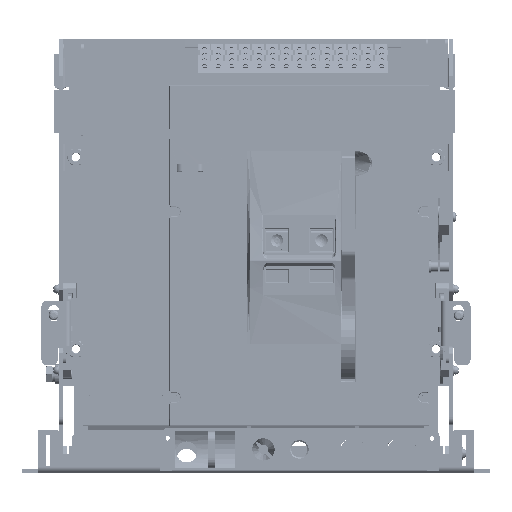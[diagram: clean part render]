
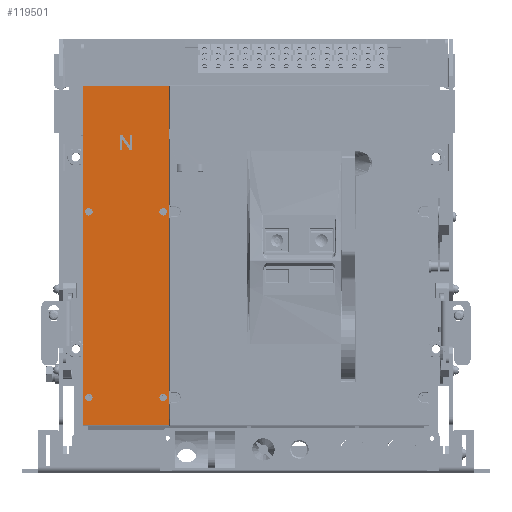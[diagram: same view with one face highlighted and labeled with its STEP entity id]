
A CAD part, top view. The second image highlights one B-rep face of the part: STEP entity #119501.
In plain terms, the highlighted planar face has unit normal (0, 0, 1).
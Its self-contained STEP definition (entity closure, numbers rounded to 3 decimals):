
#117812=DIRECTION('',(0.,-1.,0.));
#117813=VECTOR('',#117812,274.);
#117814=CARTESIAN_POINT('',(0.5,274.5,23.));
#117815=LINE('',#117814,#117813);
#117837=DIRECTION('',(-1.,0.,0.));
#117838=VECTOR('',#117837,69.);
#117839=CARTESIAN_POINT('',(69.5,274.5,23.));
#117840=LINE('',#117839,#117838);
#117887=DIRECTION('',(0.,1.,0.));
#117888=VECTOR('',#117887,274.);
#117889=CARTESIAN_POINT('',(69.5,0.5,23.));
#117890=LINE('',#117889,#117888);
#117905=DIRECTION('',(1.,0.,0.));
#117906=VECTOR('',#117905,69.);
#117907=CARTESIAN_POINT('',(0.5,0.5,23.));
#117908=LINE('',#117907,#117906);
#117919=CARTESIAN_POINT('',(5.,173.,23.));
#117920=DIRECTION('',(0.,0.,1.));
#117921=DIRECTION('',(1.,0.,0.));
#117922=AXIS2_PLACEMENT_3D('',#117919,#117920,#117921);
#117927=CARTESIAN_POINT('',(5.,173.,23.));
#117928=DIRECTION('',(0.,0.,1.));
#117929=DIRECTION('',(-1.,0.,0.));
#117930=AXIS2_PLACEMENT_3D('',#117927,#117928,#117929);
#117935=CARTESIAN_POINT('',(65.,173.,23.));
#117936=DIRECTION('',(0.,0.,1.));
#117937=DIRECTION('',(1.,0.,0.));
#117938=AXIS2_PLACEMENT_3D('',#117935,#117936,#117937);
#117943=CARTESIAN_POINT('',(65.,173.,23.));
#117944=DIRECTION('',(0.,0.,1.));
#117945=DIRECTION('',(-1.,0.,0.));
#117946=AXIS2_PLACEMENT_3D('',#117943,#117944,#117945);
#117951=CARTESIAN_POINT('',(5.,23.,23.));
#117952=DIRECTION('',(0.,0.,1.));
#117953=DIRECTION('',(1.,0.,0.));
#117954=AXIS2_PLACEMENT_3D('',#117951,#117952,#117953);
#117959=CARTESIAN_POINT('',(5.,23.,23.));
#117960=DIRECTION('',(0.,0.,1.));
#117961=DIRECTION('',(-1.,0.,0.));
#117962=AXIS2_PLACEMENT_3D('',#117959,#117960,#117961);
#117967=CARTESIAN_POINT('',(65.,23.,23.));
#117968=DIRECTION('',(0.,0.,1.));
#117969=DIRECTION('',(1.,0.,0.));
#117970=AXIS2_PLACEMENT_3D('',#117967,#117968,#117969);
#117975=CARTESIAN_POINT('',(65.,23.,23.));
#117976=DIRECTION('',(0.,0.,1.));
#117977=DIRECTION('',(-1.,0.,0.));
#117978=AXIS2_PLACEMENT_3D('',#117975,#117976,#117977);
#117983=DIRECTION('',(0.,-1.,0.));
#117984=VECTOR('',#117983,12.);
#117985=CARTESIAN_POINT('',(30.,235.,23.));
#117986=LINE('',#117985,#117984);
#117990=DIRECTION('',(1.,0.,0.));
#117991=VECTOR('',#117990,2.);
#117992=CARTESIAN_POINT('',(30.,223.,23.));
#117993=LINE('',#117992,#117991);
#117997=DIRECTION('',(0.,1.,0.));
#117998=VECTOR('',#117997,8.525);
#117999=CARTESIAN_POINT('',(32.,223.,23.));
#118000=LINE('',#117999,#117998);
#118004=DIRECTION('',(0.576,-0.818,0.));
#118005=VECTOR('',#118004,10.425);
#118006=CARTESIAN_POINT('',(32.,231.525,23.));
#118007=LINE('',#118006,#118005);
#118011=DIRECTION('',(1.,0.,0.));
#118012=VECTOR('',#118011,2.);
#118013=CARTESIAN_POINT('',(38.,223.,23.));
#118014=LINE('',#118013,#118012);
#118018=DIRECTION('',(0.,1.,0.));
#118019=VECTOR('',#118018,12.);
#118020=CARTESIAN_POINT('',(40.,223.,23.));
#118021=LINE('',#118020,#118019);
#118025=DIRECTION('',(-1.,0.,0.));
#118026=VECTOR('',#118025,2.);
#118027=CARTESIAN_POINT('',(40.,235.,23.));
#118028=LINE('',#118027,#118026);
#118032=DIRECTION('',(0.,-1.,0.));
#118033=VECTOR('',#118032,8.525);
#118034=CARTESIAN_POINT('',(38.,235.,23.));
#118035=LINE('',#118034,#118033);
#118039=DIRECTION('',(-0.576,0.818,0.));
#118040=VECTOR('',#118039,10.425);
#118041=CARTESIAN_POINT('',(38.,226.475,23.));
#118042=LINE('',#118041,#118040);
#118046=DIRECTION('',(-1.,0.,0.));
#118047=VECTOR('',#118046,2.);
#118048=CARTESIAN_POINT('',(32.,235.,23.));
#118049=LINE('',#118048,#118047);
#119070=CARTESIAN_POINT('',(8.,173.,23.));
#119071=CARTESIAN_POINT('',(2.,173.,23.));
#119072=VERTEX_POINT('',#119070);
#119073=VERTEX_POINT('',#119071);
#119074=CARTESIAN_POINT('',(68.,173.,23.));
#119075=CARTESIAN_POINT('',(62.,173.,23.));
#119076=VERTEX_POINT('',#119074);
#119077=VERTEX_POINT('',#119075);
#119078=CARTESIAN_POINT('',(8.,23.,23.));
#119079=CARTESIAN_POINT('',(2.,23.,23.));
#119080=VERTEX_POINT('',#119078);
#119081=VERTEX_POINT('',#119079);
#119082=CARTESIAN_POINT('',(68.,23.,23.));
#119083=CARTESIAN_POINT('',(62.,23.,23.));
#119084=VERTEX_POINT('',#119082);
#119085=VERTEX_POINT('',#119083);
#119120=CARTESIAN_POINT('',(30.,235.,23.));
#119121=CARTESIAN_POINT('',(30.,223.,23.));
#119122=VERTEX_POINT('',#119120);
#119123=VERTEX_POINT('',#119121);
#119124=CARTESIAN_POINT('',(32.,223.,23.));
#119125=VERTEX_POINT('',#119124);
#119126=CARTESIAN_POINT('',(32.,231.525,23.));
#119127=VERTEX_POINT('',#119126);
#119128=CARTESIAN_POINT('',(38.,223.,23.));
#119129=VERTEX_POINT('',#119128);
#119130=CARTESIAN_POINT('',(40.,223.,23.));
#119131=VERTEX_POINT('',#119130);
#119132=CARTESIAN_POINT('',(40.,235.,23.));
#119133=VERTEX_POINT('',#119132);
#119134=CARTESIAN_POINT('',(38.,235.,23.));
#119135=VERTEX_POINT('',#119134);
#119136=CARTESIAN_POINT('',(38.,226.475,23.));
#119137=VERTEX_POINT('',#119136);
#119258=CARTESIAN_POINT('',(69.5,274.5,23.));
#119259=CARTESIAN_POINT('',(0.5,274.5,23.));
#119260=VERTEX_POINT('',#119258);
#119261=VERTEX_POINT('',#119259);
#119264=CARTESIAN_POINT('',(0.5,0.5,23.));
#119265=VERTEX_POINT('',#119264);
#119266=CARTESIAN_POINT('',(69.5,0.5,23.));
#119267=VERTEX_POINT('',#119266);
#119272=CARTESIAN_POINT('',(32.,235.,23.));
#119273=VERTEX_POINT('',#119272);
#119444=CARTESIAN_POINT('',(0.,0.,23.));
#119445=DIRECTION('',(0.,0.,1.));
#119446=DIRECTION('',(1.,0.,0.));
#119447=AXIS2_PLACEMENT_3D('',#119444,#119445,#119446);
#119448=PLANE('',#119447);
#119449=ORIENTED_EDGE('',*,*,#119383,.F.);
#119450=ORIENTED_EDGE('',*,*,#119424,.F.);
#119451=ORIENTED_EDGE('',*,*,#119435,.F.);
#119452=ORIENTED_EDGE('',*,*,#119367,.F.);
#119453=EDGE_LOOP('',(#119449,#119450,#119451,#119452));
#119454=FACE_OUTER_BOUND('',#119453,.F.);
#119456=ORIENTED_EDGE('',*,*,#119455,.T.);
#119458=ORIENTED_EDGE('',*,*,#119457,.T.);
#119459=EDGE_LOOP('',(#119456,#119458));
#119460=FACE_BOUND('',#119459,.F.);
#119462=ORIENTED_EDGE('',*,*,#119461,.T.);
#119464=ORIENTED_EDGE('',*,*,#119463,.T.);
#119465=EDGE_LOOP('',(#119462,#119464));
#119466=FACE_BOUND('',#119465,.F.);
#119468=ORIENTED_EDGE('',*,*,#119467,.T.);
#119470=ORIENTED_EDGE('',*,*,#119469,.T.);
#119471=EDGE_LOOP('',(#119468,#119470));
#119472=FACE_BOUND('',#119471,.F.);
#119474=ORIENTED_EDGE('',*,*,#119473,.T.);
#119476=ORIENTED_EDGE('',*,*,#119475,.T.);
#119478=ORIENTED_EDGE('',*,*,#119477,.T.);
#119480=ORIENTED_EDGE('',*,*,#119479,.T.);
#119482=ORIENTED_EDGE('',*,*,#119481,.T.);
#119484=ORIENTED_EDGE('',*,*,#119483,.T.);
#119486=ORIENTED_EDGE('',*,*,#119485,.T.);
#119488=ORIENTED_EDGE('',*,*,#119487,.T.);
#119490=ORIENTED_EDGE('',*,*,#119489,.T.);
#119492=ORIENTED_EDGE('',*,*,#119491,.T.);
#119493=EDGE_LOOP('',(#119474,#119476,#119478,#119480,#119482,#119484,#119486,
#119488,#119490,#119492));
#119494=FACE_BOUND('',#119493,.F.);
#119496=ORIENTED_EDGE('',*,*,#119495,.T.);
#119498=ORIENTED_EDGE('',*,*,#119497,.T.);
#119499=EDGE_LOOP('',(#119496,#119498));
#119500=FACE_BOUND('',#119499,.F.);
#119501=ADVANCED_FACE('',(#119454,#119460,#119466,#119472,#119494,#119500),
#119448,.T.);
#117923=CIRCLE('',#117922,3.);
#117931=CIRCLE('',#117930,3.);
#117939=CIRCLE('',#117938,3.);
#117947=CIRCLE('',#117946,3.);
#117955=CIRCLE('',#117954,3.);
#117963=CIRCLE('',#117962,3.);
#117971=CIRCLE('',#117970,3.);
#117979=CIRCLE('',#117978,3.);
#119367=EDGE_CURVE('',#119261,#119265,#117815,.T.);
#119383=EDGE_CURVE('',#119260,#119261,#117840,.T.);
#119424=EDGE_CURVE('',#119267,#119260,#117890,.T.);
#119435=EDGE_CURVE('',#119265,#119267,#117908,.T.);
#119455=EDGE_CURVE('',#119076,#119077,#117939,.T.);
#119457=EDGE_CURVE('',#119077,#119076,#117947,.T.);
#119461=EDGE_CURVE('',#119080,#119081,#117955,.T.);
#119463=EDGE_CURVE('',#119081,#119080,#117963,.T.);
#119467=EDGE_CURVE('',#119084,#119085,#117971,.T.);
#119469=EDGE_CURVE('',#119085,#119084,#117979,.T.);
#119473=EDGE_CURVE('',#119122,#119123,#117986,.T.);
#119475=EDGE_CURVE('',#119123,#119125,#117993,.T.);
#119477=EDGE_CURVE('',#119125,#119127,#118000,.T.);
#119479=EDGE_CURVE('',#119127,#119129,#118007,.T.);
#119481=EDGE_CURVE('',#119129,#119131,#118014,.T.);
#119483=EDGE_CURVE('',#119131,#119133,#118021,.T.);
#119485=EDGE_CURVE('',#119133,#119135,#118028,.T.);
#119487=EDGE_CURVE('',#119135,#119137,#118035,.T.);
#119489=EDGE_CURVE('',#119137,#119273,#118042,.T.);
#119491=EDGE_CURVE('',#119273,#119122,#118049,.T.);
#119495=EDGE_CURVE('',#119072,#119073,#117923,.T.);
#119497=EDGE_CURVE('',#119073,#119072,#117931,.T.);
